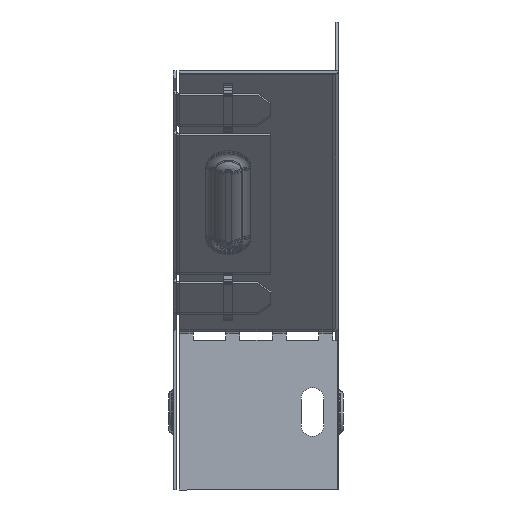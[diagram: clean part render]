
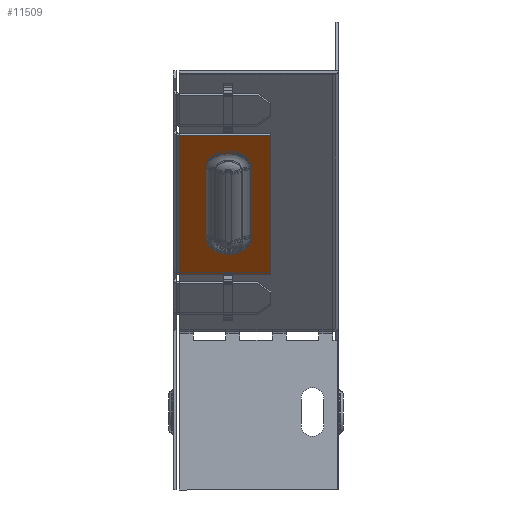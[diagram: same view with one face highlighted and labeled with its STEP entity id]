
A CAD part, left-side view. The second image highlights one B-rep face of the part: STEP entity #11509.
In plain terms, the highlighted planar face has unit normal (-0.707, 0, -0.707).
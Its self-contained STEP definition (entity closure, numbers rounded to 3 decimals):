
#41 = LINE ( 'NONE', #8729, #14973 ) ;
#212 = DIRECTION ( 'NONE',  ( 0.5, -0.707, -0.5 ) ) ;
#872 = CARTESIAN_POINT ( 'NONE',  ( -311.823, 48.2, -34.855 ) ) ;
#1037 = EDGE_CURVE ( 'NONE', #5445, #10491, #41, .T. ) ;
#1090 = LINE ( 'NONE', #6901, #11055 ) ;
#1368 = VERTEX_POINT ( 'NONE', #872 ) ;
#1960 = EDGE_LOOP ( 'NONE', ( #14607, #10123, #7148, #9103 ) ) ;
#2449 = ORIENTED_EDGE ( 'NONE', *, *, #16834, .T. ) ;
#2810 = VECTOR ( 'NONE', #11726, 1000. ) ;
#3462 = VERTEX_POINT ( 'NONE', #16976 ) ;
#3730 = EDGE_LOOP ( 'NONE', ( #13963, #19216, #19300, #2449 ) ) ;
#3900 = CARTESIAN_POINT ( 'NONE',  ( -301.206, 40.017, -45.472 ) ) ;
#4347 = VECTOR ( 'NONE', #7395, 1000. ) ;
#4451 = VERTEX_POINT ( 'NONE', #12806 ) ;
#4547 = CARTESIAN_POINT ( 'NONE',  ( -311.823, 20., -34.855 ) ) ;
#5445 = VERTEX_POINT ( 'NONE', #13500 ) ;
#6021 = AXIS2_PLACEMENT_3D ( 'NONE', #14080, #11207, #8240 ) ;
#6523 = EDGE_CURVE ( 'NONE', #14362, #13321, #14202, .T. ) ;
#6901 = CARTESIAN_POINT ( 'NONE',  ( -165.837, 20., -180.841 ) ) ;
#7148 = ORIENTED_EDGE ( 'NONE', *, *, #1037, .T. ) ;
#7395 = DIRECTION ( 'NONE',  ( -0.707, 0., 0.707 ) ) ;
#7610 = EDGE_CURVE ( 'NONE', #10491, #14362, #16538, .T. ) ;
#8024 = LINE ( 'NONE', #4547, #16089 ) ;
#8240 = DIRECTION ( 'NONE',  ( 0.707, 0., -0.707 ) ) ;
#8729 = CARTESIAN_POINT ( 'NONE',  ( -279.993, 40.017, -66.685 ) ) ;
#9103 = ORIENTED_EDGE ( 'NONE', *, *, #7610, .T. ) ;
#9165 = DIRECTION ( 'NONE',  ( 0.5, -0.707, -0.5 ) ) ;
#9590 = VERTEX_POINT ( 'NONE', #11574 ) ;
#10018 = DIRECTION ( 'NONE',  ( -0.707, 0., 0.707 ) ) ;
#10047 = AXIS2_PLACEMENT_3D ( 'NONE', #11048, #17008, #212 ) ;
#10123 = ORIENTED_EDGE ( 'NONE', *, *, #16040, .T. ) ;
#10491 = VERTEX_POINT ( 'NONE', #3900 ) ;
#10759 = AXIS2_PLACEMENT_3D ( 'NONE', #12263, #18412, #9165 ) ;
#10869 = EDGE_CURVE ( 'NONE', #4451, #3462, #1090, .T. ) ;
#10910 = VECTOR ( 'NONE', #11632, 1000. ) ;
#11048 = CARTESIAN_POINT ( 'NONE',  ( -301.206, 33.1, -45.472 ) ) ;
#11055 = VECTOR ( 'NONE', #10018, 1000. ) ;
#11207 = DIRECTION ( 'NONE',  ( 0.707, 0., 0.707 ) ) ;
#11509 = ADVANCED_FACE ( 'NONE', ( #17424, #14374 ), #18679, .F. ) ;
#11559 = DIRECTION ( 'NONE',  ( -0.707, 0., 0.707 ) ) ;
#11574 = CARTESIAN_POINT ( 'NONE',  ( -269.022, 48.2, -77.656 ) ) ;
#11632 = DIRECTION ( 'NONE',  ( 0., -1., 0. ) ) ;
#11726 = DIRECTION ( 'NONE',  ( 0.707, 0., -0.707 ) ) ;
#12263 = CARTESIAN_POINT ( 'NONE',  ( -279.993, 33.1, -66.685 ) ) ;
#12806 = CARTESIAN_POINT ( 'NONE',  ( -269.022, 20., -77.656 ) ) ;
#13309 = LINE ( 'NONE', #14437, #10910 ) ;
#13321 = VERTEX_POINT ( 'NONE', #19272 ) ;
#13500 = CARTESIAN_POINT ( 'NONE',  ( -279.993, 40.017, -66.685 ) ) ;
#13638 = DIRECTION ( 'NONE',  ( 0., 1., 0. ) ) ;
#13963 = ORIENTED_EDGE ( 'NONE', *, *, #14526, .F. ) ;
#14080 = CARTESIAN_POINT ( 'NONE',  ( -165.837, 50., -180.841 ) ) ;
#14202 = LINE ( 'NONE', #16256, #2810 ) ;
#14362 = VERTEX_POINT ( 'NONE', #14429 ) ;
#14374 = FACE_OUTER_BOUND ( 'NONE', #3730, .T. ) ;
#14429 = CARTESIAN_POINT ( 'NONE',  ( -301.206, 26.183, -45.472 ) ) ;
#14437 = CARTESIAN_POINT ( 'NONE',  ( -269.022, 20., -77.656 ) ) ;
#14526 = EDGE_CURVE ( 'NONE', #9590, #1368, #17122, .T. ) ;
#14607 = ORIENTED_EDGE ( 'NONE', *, *, #6523, .T. ) ;
#14973 = VECTOR ( 'NONE', #11559, 1000. ) ;
#15666 = CIRCLE ( 'NONE', #10759, 6.917 ) ;
#16040 = EDGE_CURVE ( 'NONE', #13321, #5445, #15666, .T. ) ;
#16089 = VECTOR ( 'NONE', #13638, 1000. ) ;
#16256 = CARTESIAN_POINT ( 'NONE',  ( -279.993, 26.183, -66.685 ) ) ;
#16538 = CIRCLE ( 'NONE', #10047, 6.917 ) ;
#16834 = EDGE_CURVE ( 'NONE', #3462, #1368, #8024, .T. ) ;
#16976 = CARTESIAN_POINT ( 'NONE',  ( -311.823, 20., -34.855 ) ) ;
#17008 = DIRECTION ( 'NONE',  ( 0.707, 0., 0.707 ) ) ;
#17122 = LINE ( 'NONE', #17847, #4347 ) ;
#17424 = FACE_BOUND ( 'NONE', #1960, .T. ) ;
#17847 = CARTESIAN_POINT ( 'NONE',  ( -328.087, 48.2, -18.591 ) ) ;
#18412 = DIRECTION ( 'NONE',  ( 0.707, 0., 0.707 ) ) ;
#18679 = PLANE ( 'NONE',  #6021 ) ;
#18689 = EDGE_CURVE ( 'NONE', #9590, #4451, #13309, .T. ) ;
#19216 = ORIENTED_EDGE ( 'NONE', *, *, #18689, .T. ) ;
#19272 = CARTESIAN_POINT ( 'NONE',  ( -279.993, 26.183, -66.685 ) ) ;
#19300 = ORIENTED_EDGE ( 'NONE', *, *, #10869, .T. ) ;
